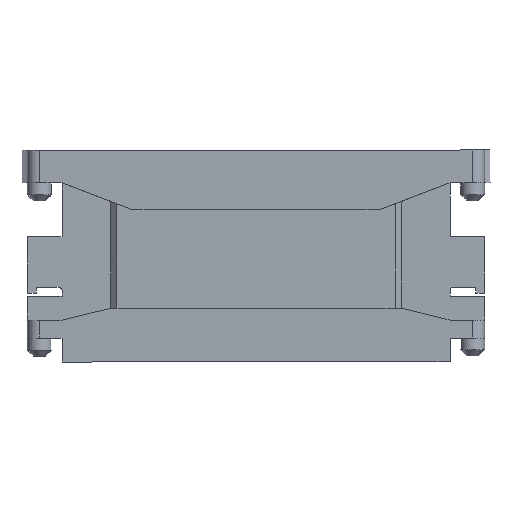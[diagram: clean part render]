
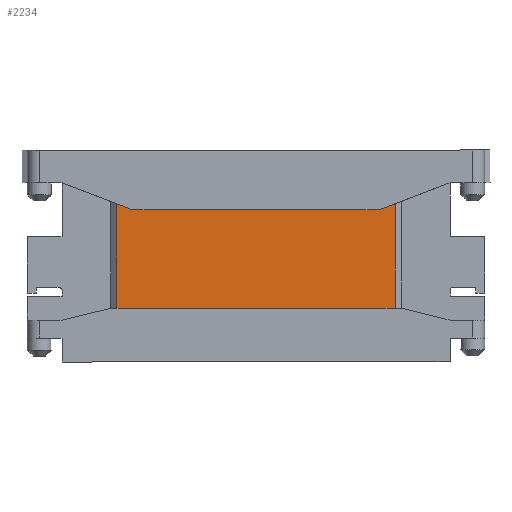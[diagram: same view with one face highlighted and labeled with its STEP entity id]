
A CAD part, left-side view. The second image highlights one B-rep face of the part: STEP entity #2234.
In plain terms, the highlighted planar face has unit normal (-1, 0, 0).
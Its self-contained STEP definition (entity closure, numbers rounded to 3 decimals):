
#976=CARTESIAN_POINT('',(196.492,49.773,32.941));
#977=VERTEX_POINT('',#976);
#984=CARTESIAN_POINT('',(196.492,47.102,33.955));
#985=VERTEX_POINT('',#984);
#986=CARTESIAN_POINT('',(196.492,47.102,33.955));
#987=DIRECTION('',(0.0,0.935,-0.355));
#988=VECTOR('',#987,2.857);
#989=LINE('',#986,#988);
#990=EDGE_CURVE('',#985,#977,#989,.T.);
#1179=CARTESIAN_POINT('',(196.492,47.098,16.442));
#1180=VERTEX_POINT('',#1179);
#1189=CARTESIAN_POINT('',(196.492,47.102,33.955));
#1190=DIRECTION('',(0.0,0.,-1.));
#1191=VECTOR('',#1190,17.513);
#1192=LINE('',#1189,#1191);
#1193=EDGE_CURVE('',#985,#1180,#1192,.T.);
#1904=CARTESIAN_POINT('',(196.492,56.408,32.939));
#1905=VERTEX_POINT('',#1904);
#1912=CARTESIAN_POINT('',(196.492,49.773,32.941));
#1913=DIRECTION('',(0.,1.,0.));
#1914=VECTOR('',#1913,6.635);
#1915=LINE('',#1912,#1914);
#1916=EDGE_CURVE('',#977,#1905,#1915,.T.);
#1933=CARTESIAN_POINT('',(196.492,56.404,16.439));
#1934=VERTEX_POINT('',#1933);
#1951=CARTESIAN_POINT('',(196.492,56.404,16.439));
#1952=DIRECTION('',(0.0,-1.,0.));
#1953=VECTOR('',#1952,9.306);
#1954=LINE('',#1951,#1953);
#1955=EDGE_CURVE('',#1934,#1180,#1954,.T.);
#2027=CARTESIAN_POINT('',(196.492,84.404,16.433));
#2028=VERTEX_POINT('',#2027);
#2029=CARTESIAN_POINT('',(196.492,84.404,16.433));
#2030=DIRECTION('',(0.,-1.,0.));
#2031=VECTOR('',#2030,28.);
#2032=LINE('',#2029,#2031);
#2033=EDGE_CURVE('',#2028,#1934,#2032,.T.);
#2066=CARTESIAN_POINT('',(196.492,84.408,32.933));
#2067=VERTEX_POINT('',#2066);
#2074=CARTESIAN_POINT('',(196.492,84.408,32.933));
#2075=DIRECTION('',(0.,-1.,0.));
#2076=VECTOR('',#2075,28.);
#2077=LINE('',#2074,#2076);
#2078=EDGE_CURVE('',#2067,#1905,#2077,.T.);
#2191=CARTESIAN_POINT('',(196.492,73.811,24.178));
#2192=DIRECTION('',(1.0,0.0,0.0));
#2193=DIRECTION('',(0.0,0.,1.));
#2194=AXIS2_PLACEMENT_3D('',#2191,#2192,#2193);
#2195=PLANE('',#2194);
#2196=CARTESIAN_POINT('',(196.492,91.044,32.931));
#2197=VERTEX_POINT('',#2196);
#2198=CARTESIAN_POINT('',(196.492,91.044,32.931));
#2199=DIRECTION('',(0.0,-1.,0.));
#2200=VECTOR('',#2199,6.635);
#2201=LINE('',#2198,#2200);
#2202=EDGE_CURVE('',#2197,#2067,#2201,.T.);
#2203=ORIENTED_EDGE('',*,*,#2202,.F.);
#2204=CARTESIAN_POINT('',(196.492,93.715,33.944));
#2205=VERTEX_POINT('',#2204);
#2206=CARTESIAN_POINT('',(196.492,93.715,33.944));
#2207=DIRECTION('',(0.,-0.935,-0.354));
#2208=VECTOR('',#2207,2.857);
#2209=LINE('',#2206,#2208);
#2210=EDGE_CURVE('',#2205,#2197,#2209,.T.);
#2211=ORIENTED_EDGE('',*,*,#2210,.F.);
#2212=CARTESIAN_POINT('',(196.492,93.711,16.43));
#2213=VERTEX_POINT('',#2212);
#2214=CARTESIAN_POINT('',(196.492,93.715,33.944));
#2215=DIRECTION('',(0.,0.,-1.));
#2216=VECTOR('',#2215,17.513);
#2217=LINE('',#2214,#2216);
#2218=EDGE_CURVE('',#2205,#2213,#2217,.T.);
#2219=ORIENTED_EDGE('',*,*,#2218,.T.);
#2220=CARTESIAN_POINT('',(196.492,84.404,16.433));
#2221=DIRECTION('',(0.,1.,0.));
#2222=VECTOR('',#2221,9.306);
#2223=LINE('',#2220,#2222);
#2224=EDGE_CURVE('',#2028,#2213,#2223,.T.);
#2225=ORIENTED_EDGE('',*,*,#2224,.F.);
#2226=ORIENTED_EDGE('',*,*,#2033,.T.);
#2227=ORIENTED_EDGE('',*,*,#1955,.T.);
#2228=ORIENTED_EDGE('',*,*,#1193,.F.);
#2229=ORIENTED_EDGE('',*,*,#990,.T.);
#2230=ORIENTED_EDGE('',*,*,#1916,.T.);
#2231=ORIENTED_EDGE('',*,*,#2078,.F.);
#2232=EDGE_LOOP('',(#2203,#2211,#2219,#2225,#2226,#2227,#2228,#2229,#2230,#2231));
#2233=FACE_OUTER_BOUND('',#2232,.T.);
#2234=ADVANCED_FACE('',(#2233),#2195,.F.);
